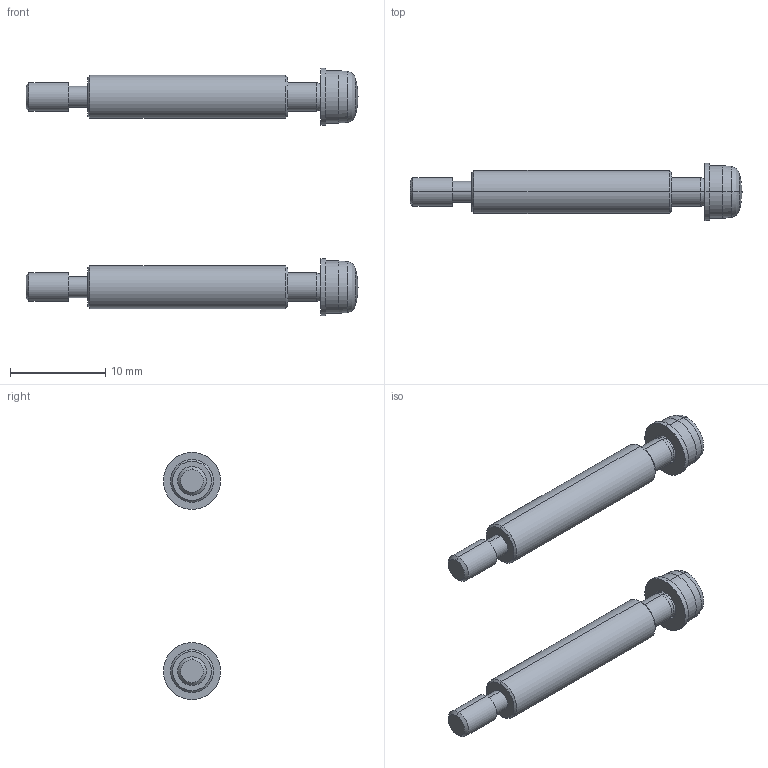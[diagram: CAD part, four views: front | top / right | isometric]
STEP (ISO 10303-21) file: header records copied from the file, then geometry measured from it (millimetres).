
FILE_DESCRIPTION( (''), '2;1');
FILE_NAME ('YS8Z-1.stp','2022-12-01T14:58:22',(''),(''),'spGate 12.6.6','','');
FILE_SCHEMA (('AUTOMOTIVE_DESIGN'));
Length unit declared in the file: millimetre
Products named in the file (3): Assembly; YS8Z-1-prt0; YS8Z-1-prt1
Assembly tree (4 placements, depth 2):
  Assembly
    YS8Z-1-prt0  x2
    YS8Z-1-prt1  x2
Bounding box: 34.9 x 6 x 26 mm (x, y, z)
Volume: 873.5 mm3; surface area: 1380.4 mm2
Topology: 4 solids, 4 shells, 94 faces, 188 edges, 108 vertices
Faces by surface type: cylinder 40, bspline 32, plane 18, sphere 4
Entity records: 2150 total; most frequent: CARTESIAN_POINT 415, DIRECTION 182, ORIENTED_EDGE 180, COLOUR_RGB 139, PRESENTATION_STYLE_ASSIGNMENT 139, STYLED_ITEM 139, AXIS2_PLACEMENT_3D 91, EDGE_CURVE 90
